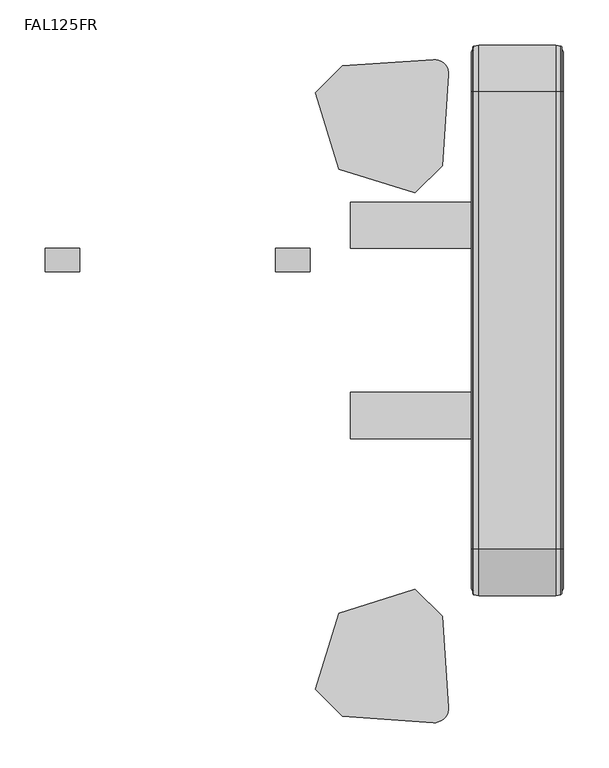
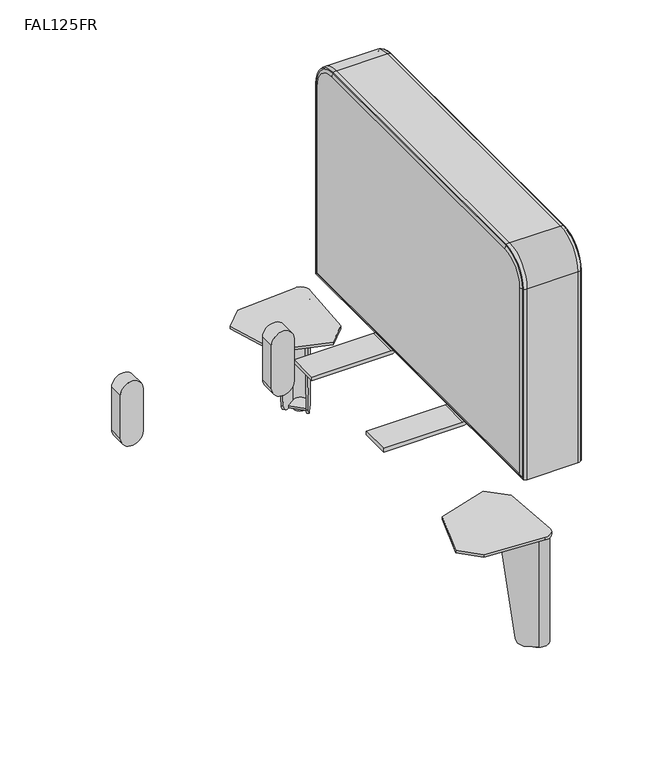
"""IFC4 building model written with IfcOpenShell, lengths in millimetres: furniture geometry, Stance_HC-Flora-Seat_Straight : FAL125FR."""

from ifc_helpers import new_model, si_unit, point, frame, frame_2d, origin, origin_with_axes, place, context, project, spatial, polyline, circle_curve, ellipse_curve, trimmed, segment, composite_curve, outline, extrude, source, transform, mapped, element, save
from ifc_brep_helpers import plane_surface, cylinder_surface, revolved_surface, advanced_brep


def fal125fr_3b171998(model_context):
    return source(origin(), model_context, "Body", "SolidModel", [
        extrude(outline(composite_curve([segment(polyline([(319.1128982, 647.699997), (204.8129042, 647.699997)]), True, "CONTINUOUS"), segment(trimmed(circle_curve(frame_2d((204.8129042, 641.349997)), 6.35), [point((204.8129042, 647.699997))], [point((198.4629042, 641.349997))], True, "CARTESIAN"), True, "CONTINUOUS"), segment(polyline([(198.4629042, 641.349997), (198.4629042, 508.000003), (192.1128921, 508.000003), (192.1128921, 641.349997)]), True, "CONTINUOUS"), segment(trimmed(circle_curve(frame_2d((204.8129042, 641.349997)), 12.7000121), [point((192.1128921, 641.349997))], [point((204.8129042, 654.0500091))], False, "CARTESIAN"), True, "CONTINUOUS"), segment(polyline([(204.8129042, 654.0500091), (319.1128982, 654.0500091), (319.1128982, 647.699997)]), True, "CONTINUOUS")], self_intersect=False)), frame((0.0, -223.8501991, 0.0), z_axis=(0.0, 1.0, 0.0), x_axis=(0.0, 0.0, 1.0)), (0.0, 0.0, 1.0), 50.7999879),
        extrude(outline(composite_curve([segment(polyline([(319.1128982, 647.699997), (204.8129042, 647.699997)]), True, "CONTINUOUS"), segment(trimmed(circle_curve(frame_2d((204.8129042, 641.349997)), 6.35), [point((204.8129042, 647.699997))], [point((198.4629042, 641.349997))], True, "CARTESIAN"), True, "CONTINUOUS"), segment(polyline([(198.4629042, 641.349997), (198.4629042, 508.000003), (192.1128921, 508.000003), (192.1128921, 641.349997)]), True, "CONTINUOUS"), segment(trimmed(circle_curve(frame_2d((204.8129042, 641.349997)), 12.7000121), [point((192.1128921, 641.349997))], [point((204.8129042, 654.0500091))], False, "CARTESIAN"), True, "CONTINUOUS"), segment(polyline([(204.8129042, 654.0500091), (319.1128982, 654.0500091), (319.1128982, 647.699997)]), True, "CONTINUOUS")], self_intersect=False)), frame((0.0, -433.3239864, 0.0), z_axis=(0.0, 1.0, 0.0), x_axis=(0.0, 0.0, 1.0)), (0.0, 0.0, 1.0), 50.7999879),
        advanced_brep(
        [(641.3499485, -555.6250121, 580.256636), (641.3499485, -50.8, 580.256636), (641.3499485, -8.73125, 538.187886), (641.3499485, -8.73125, 207.1941542), (641.3499485, -597.6937621, 207.1941542), (641.3499485, -597.6937621, 538.187886), (742.949997, -597.6937621, 538.187886), (742.949997, -597.6937621, 207.1941542), (742.949997, -8.73125, 207.1941542), (742.949997, -8.73125, 538.187886), (742.949997, -50.8, 580.256636), (742.949997, -555.6250121, 580.256636), (649.834142, -606.4250121, 538.187886), (734.4658035, -606.4250121, 538.187886), (734.4658035, -555.6250121, 588.987886), (649.834142, -555.6250121, 588.987886), (649.834142, -606.4250121, 198.4629042), (734.4658035, -606.4250121, 198.4629042), (649.834142, 0.0, 198.4629042), (734.4658035, 0.0, 198.4629042), (649.834142, 0.0, 538.187886), (734.4658035, 0.0, 538.187886), (649.834142, -50.8, 588.987886), (734.4658035, -50.8, 588.987886), (740.3065441, -603.3867316, 538.187886), (740.3065441, -555.6250121, 585.9496056), (740.3689212, -555.6250121, 587.8832953), (740.3689212, -605.3204213, 538.187886), (740.3065441, -603.3867316, 201.5011847), (740.3689212, -605.3204213, 199.567495), (740.3065441, -3.0382805, 201.5011847), (740.3689212, -1.1045908, 199.567495), (740.3065441, -3.0382805, 538.187886), (740.3689212, -1.1045908, 538.187886), (740.3065441, -50.8, 585.9496056), (740.3689212, -50.8, 587.8832953), (643.9310243, -555.6250121, 587.8832953), (643.9310243, -605.3204213, 538.187886), (643.9934014, -555.6250121, 585.9496056), (643.9934014, -603.3867316, 538.187886), (643.9310243, -605.3204213, 199.567495), (643.9934014, -603.3867316, 201.5011847), (643.9310243, -1.1045908, 199.567495), (643.9934014, -3.0382805, 201.5011847), (643.9310243, -1.1045908, 538.187886), (643.9934014, -3.0382805, 538.187886), (643.9310243, -50.8, 587.8832953), (643.9934014, -50.8, 585.9496056)],
        [
            (0, 1),
            (1, 2, circle_curve(frame((641.3499485, -50.8, 538.187886), z_axis=(-1.0, 0.0, 0.0), x_axis=(0.0, 1.0, 0.0)), 42.06875)),
            (2, 3),
            (3, 4),
            (4, 5),
            (5, 0, circle_curve(frame((641.3499485, -555.6250121, 538.187886), z_axis=(-1.0, 0.0, 0.0), x_axis=(0.0, 0.0, 1.0)), 42.06875)),
            (6, 7),
            (7, 8),
            (8, 9),
            (9, 10, circle_curve(frame((742.949997, -50.8, 538.187886), z_axis=(1.0, 0.0, 0.0), x_axis=(0.0, 1.0, 0.0)), 42.06875)),
            (10, 11),
            (11, 6, circle_curve(frame((742.949997, -555.6250121, 538.187886), z_axis=(1.0, 0.0, 0.0), x_axis=(0.0, 0.0, 1.0)), 42.06875)),
            (12, 13),
            (13, 14, circle_curve(frame((734.4658035, -555.6250121, 538.187886), z_axis=(-1.0, 0.0, 0.0), x_axis=(0.0, 0.0, 1.0)), 50.8)),
            (14, 15),
            (15, 12, circle_curve(frame((649.834142, -555.6250121, 538.187886), z_axis=(1.0, 0.0, 0.0), x_axis=(0.0, 0.0, 1.0)), 50.8)),
            (12, 16),
            (16, 17),
            (17, 13),
            (16, 18),
            (18, 19),
            (19, 17),
            (18, 20),
            (20, 21),
            (21, 19),
            (20, 22, circle_curve(frame((649.834142, -50.8, 538.187886), z_axis=(1.0, 0.0, 0.0), x_axis=(0.0, 1.0, 0.0)), 50.8)),
            (22, 23),
            (23, 21, circle_curve(frame((734.4658035, -50.8, 538.187886), z_axis=(-1.0, 0.0, 0.0), x_axis=(0.0, 1.0, 0.0)), 50.8)),
            (14, 23),
            (22, 15),
            (24, 6, circle_curve(frame((735.4980492, -597.6937621, 538.187886), z_axis=(0.0, 0.0, 1.0), x_axis=(0.0, 1.0, 0.0)), 7.4519478)),
            (11, 25, circle_curve(frame((735.4980492, -555.6250121, 580.256636), z_axis=(0.0, -1.0, 0.0), x_axis=(0.0, 0.0, -1.0)), 7.4519478)),
            (25, 24, circle_curve(frame((740.3065441, -555.6250121, 538.187886), z_axis=(1.0, 0.0, 0.0), x_axis=(0.0, 0.0, 1.0)), 47.7617195)),
            (25, 26, circle_curve(frame((739.9982081, -555.6250121, 586.9274028), z_axis=(0.0, -1.0, 0.0), x_axis=(0.0, 0.0, -1.0)), 1.0252602)),
            (26, 27, circle_curve(frame((740.3689212, -555.6250121, 538.187886), z_axis=(1.0, 0.0, 0.0), x_axis=(0.0, 0.0, 1.0)), 49.6954092)),
            (27, 24, circle_curve(frame((739.9982081, -604.3645289, 538.187886), z_axis=(0.0, 0.0, 1.0), x_axis=(0.0, 1.0, 0.0)), 1.0252602)),
            (13, 27, circle_curve(frame((734.4658035, -590.099093, 538.187886), z_axis=(0.0, 0.0, 1.0), x_axis=(0.0, 1.0, 0.0)), 16.3259191)),
            (26, 14, circle_curve(frame((734.4658035, -555.6250121, 572.661967), z_axis=(0.0, -1.0, 0.0), x_axis=(0.0, 0.0, -1.0)), 16.3259191)),
            (24, 28),
            (28, 7, ellipse_curve(frame((735.4980492, -597.6937621, 207.1941542), z_axis=(0.0, -0.7071067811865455, 0.7071067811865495), x_axis=(0.0, 0.7071067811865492, 0.7071067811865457)), 10.5386456, 7.4519478)),
            (27, 29),
            (29, 28, ellipse_curve(frame((739.9982081, -604.3645289, 200.5233874), z_axis=(0.0, -0.7071067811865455, 0.7071067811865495), x_axis=(0.0, 0.7071067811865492, 0.7071067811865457)), 1.4499369, 1.0252602)),
            (17, 29, ellipse_curve(frame((734.4658035, -590.099093, 214.7888233), z_axis=(0.0, -0.7071067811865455, 0.7071067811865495), x_axis=(0.0, 0.7071067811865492, 0.7071067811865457)), 23.0883362, 16.3259191)),
            (28, 30),
            (30, 8, ellipse_curve(frame((735.4980492, -8.73125, 207.1941542), z_axis=(0.0, -0.7071067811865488, -0.7071067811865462), x_axis=(0.0, -0.7071067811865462, 0.7071067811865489)), 10.5386456, 7.4519478)),
            (29, 31),
            (31, 30, ellipse_curve(frame((739.9982081, -2.0604832, 200.5233874), z_axis=(0.0, -0.7071067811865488, -0.7071067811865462), x_axis=(0.0, -0.7071067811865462, 0.7071067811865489)), 1.4499369, 1.0252602)),
            (19, 31, ellipse_curve(frame((734.4658035, -16.3259191, 214.7888233), z_axis=(0.0, -0.7071067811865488, -0.7071067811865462), x_axis=(0.0, -0.7071067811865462, 0.7071067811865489)), 23.0883362, 16.3259191)),
            (30, 32),
            (32, 9, circle_curve(frame((735.4980492, -8.73125, 538.187886), z_axis=(0.0, 0.0, -1.0), x_axis=(0.0, -1.0, 0.0)), 7.4519478)),
            (31, 33),
            (33, 32, circle_curve(frame((739.9982081, -2.0604832, 538.187886), z_axis=(0.0, 0.0, -1.0), x_axis=(0.0, -1.0, 0.0)), 1.0252602)),
            (21, 33, circle_curve(frame((734.4658035, -16.3259191, 538.187886), z_axis=(0.0, 0.0, -1.0), x_axis=(0.0, -1.0, 0.0)), 16.3259191)),
            (32, 34, circle_curve(frame((740.3065441, -50.8, 538.187886), z_axis=(1.0, 0.0, 0.0), x_axis=(0.0, 1.0, 0.0)), 47.7617195)),
            (34, 10, circle_curve(frame((735.4980492, -50.8, 580.256636), z_axis=(0.0, 1.0, 0.0), x_axis=(0.0, 0.0, -1.0)), 7.4519478)),
            (33, 35, circle_curve(frame((740.3689212, -50.8, 538.187886), z_axis=(1.0, 0.0, 0.0), x_axis=(0.0, 1.0, 0.0)), 49.6954092)),
            (35, 34, circle_curve(frame((739.9982081, -50.8, 586.9274028), z_axis=(0.0, 1.0, 0.0), x_axis=(0.0, 0.0, -1.0)), 1.0252602)),
            (23, 35, circle_curve(frame((734.4658035, -50.8, 572.661967), z_axis=(0.0, 1.0, 0.0), x_axis=(0.0, 0.0, -1.0)), 16.3259191)),
            (34, 25),
            (35, 26),
            (15, 36, circle_curve(frame((649.834142, -555.6250121, 572.661967), z_axis=(0.0, -1.0, 0.0), x_axis=(0.0, 0.0, -1.0)), 16.3259191)),
            (36, 37, circle_curve(frame((643.9310243, -555.6250121, 538.187886), z_axis=(1.0, 0.0, 0.0), x_axis=(0.0, 0.0, 1.0)), 49.6954092)),
            (37, 12, circle_curve(frame((649.834142, -590.099093, 538.187886), z_axis=(0.0, 0.0, 1.0), x_axis=(0.0, 1.0, 0.0)), 16.3259191)),
            (36, 38, circle_curve(frame((644.3017374, -555.6250121, 586.9274028), z_axis=(0.0, -1.0, 0.0), x_axis=(0.0, 0.0, -1.0)), 1.0252602)),
            (38, 39, circle_curve(frame((643.9934014, -555.6250121, 538.187886), z_axis=(1.0, 0.0, 0.0), x_axis=(0.0, 0.0, 1.0)), 47.7617195)),
            (39, 37, circle_curve(frame((644.3017374, -604.3645289, 538.187886), z_axis=(0.0, 0.0, 1.0), x_axis=(0.0, 1.0, 0.0)), 1.0252602)),
            (38, 0, circle_curve(frame((648.8018963, -555.6250121, 580.256636), z_axis=(0.0, -1.0, 0.0), x_axis=(0.0, 0.0, -1.0)), 7.4519478)),
            (5, 39, circle_curve(frame((648.8018963, -597.6937621, 538.187886), z_axis=(0.0, 0.0, 1.0), x_axis=(0.0, 1.0, 0.0)), 7.4519478)),
            (37, 40),
            (40, 16, ellipse_curve(frame((649.834142, -590.099093, 214.7888233), z_axis=(0.0, -0.7071067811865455, 0.7071067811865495), x_axis=(0.0, 0.7071067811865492, 0.7071067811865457)), 23.0883362, 16.3259191)),
            (39, 41),
            (41, 40, ellipse_curve(frame((644.3017374, -604.3645289, 200.5233874), z_axis=(0.0, -0.7071067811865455, 0.7071067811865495), x_axis=(0.0, 0.7071067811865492, 0.7071067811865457)), 1.4499369, 1.0252602)),
            (4, 41, ellipse_curve(frame((648.8018963, -597.6937621, 207.1941542), z_axis=(0.0, -0.7071067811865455, 0.7071067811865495), x_axis=(0.0, 0.7071067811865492, 0.7071067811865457)), 10.5386456, 7.4519478)),
            (40, 42),
            (42, 18, ellipse_curve(frame((649.834142, -16.3259191, 214.7888233), z_axis=(0.0, -0.7071067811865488, -0.7071067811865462), x_axis=(0.0, -0.7071067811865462, 0.7071067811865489)), 23.0883362, 16.3259191)),
            (41, 43),
            (43, 42, ellipse_curve(frame((644.3017374, -2.0604832, 200.5233874), z_axis=(0.0, -0.7071067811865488, -0.7071067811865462), x_axis=(0.0, -0.7071067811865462, 0.7071067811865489)), 1.4499369, 1.0252602)),
            (3, 43, ellipse_curve(frame((648.8018963, -8.73125, 207.1941542), z_axis=(0.0, -0.7071067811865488, -0.7071067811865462), x_axis=(0.0, -0.7071067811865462, 0.7071067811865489)), 10.5386456, 7.4519478)),
            (42, 44),
            (44, 20, circle_curve(frame((649.834142, -16.3259191, 538.187886), z_axis=(0.0, 0.0, -1.0), x_axis=(0.0, -1.0, 0.0)), 16.3259191)),
            (43, 45),
            (45, 44, circle_curve(frame((644.3017374, -2.0604832, 538.187886), z_axis=(0.0, 0.0, -1.0), x_axis=(0.0, -1.0, 0.0)), 1.0252602)),
            (2, 45, circle_curve(frame((648.8018963, -8.73125, 538.187886), z_axis=(0.0, 0.0, -1.0), x_axis=(0.0, -1.0, 0.0)), 7.4519478)),
            (44, 46, circle_curve(frame((643.9310243, -50.8, 538.187886), z_axis=(1.0, 0.0, 0.0), x_axis=(0.0, 1.0, 0.0)), 49.6954092)),
            (46, 22, circle_curve(frame((649.834142, -50.8, 572.661967), z_axis=(0.0, 1.0, 0.0), x_axis=(0.0, 0.0, -1.0)), 16.3259191)),
            (45, 47, circle_curve(frame((643.9934014, -50.8, 538.187886), z_axis=(1.0, 0.0, 0.0), x_axis=(0.0, 1.0, 0.0)), 47.7617195)),
            (47, 46, circle_curve(frame((644.3017374, -50.8, 586.9274028), z_axis=(0.0, 1.0, 0.0), x_axis=(0.0, 0.0, -1.0)), 1.0252602)),
            (1, 47, circle_curve(frame((648.8018963, -50.8, 580.256636), z_axis=(0.0, 1.0, 0.0), x_axis=(0.0, 0.0, -1.0)), 7.4519478)),
            (46, 36),
            (47, 38),
        ],
        [
            plane_surface(frame((641.3499485, -555.6250121, 580.256636), z_axis=(-1.0, 0.0, 0.0), x_axis=(0.0, -1.0, 0.0))),
            plane_surface(frame((742.949997, -555.6250121, 580.256636), z_axis=(1.0, 0.0, 0.0), x_axis=(0.0, 1.0, 0.0))),
            cylinder_surface(frame((635.0, -555.6250121, 538.187886), z_axis=(-1.0, 0.0, 0.0), x_axis=(0.0, 0.0, 1.0)), 50.8),
            plane_surface(frame((734.4658035, -606.4250121, 538.187886), z_axis=(0.0, -1.0, 0.0), x_axis=(0.0, 0.0, -1.0))),
            plane_surface(frame((734.4658035, -606.4250121, 198.4629042), z_axis=(0.0, 0.0, -1.0), x_axis=(0.0, 1.0, 0.0))),
            plane_surface(frame((734.4658035, 0.0, 198.4629042), z_axis=(0.0, 1.0, 0.0), x_axis=(0.0, 0.0, 1.0))),
            cylinder_surface(frame((635.0, -50.8, 538.187886), z_axis=(-1.0, 0.0, 0.0), x_axis=(0.0, 1.0, 0.0)), 50.8),
            plane_surface(frame((734.4658035, -50.8, 588.987886), z_axis=(0.0, 0.0, 1.0), x_axis=(0.0, -1.0, 0.0))),
            revolved_surface(trimmed(ellipse_curve(frame((735.4980492, -555.6250121, 580.256636), z_axis=(0.0, -1.0, 0.0), x_axis=(0.0, 0.0, -1.0)), 7.4519478, 7.4519478), [point((742.949997, -555.6250121, 580.256636))], [point((740.3065441, -555.6250121, 585.9496056))], True, "CARTESIAN"), (635.0, -555.6250121, 538.187886), (-1.0, 0.0, 0.0)),
            revolved_surface(trimmed(ellipse_curve(frame((739.9982081, -555.6250121, 586.9274028), z_axis=(0.0, -1.0, 0.0), x_axis=(0.0, 0.0, -1.0)), 1.0252602, 1.0252602), [point((740.3065441, -555.6250121, 585.9496056))], [point((740.3689212, -555.6250121, 587.8832953))], True, "CARTESIAN"), (635.0, -555.6250121, 538.187886), (-1.0, 0.0, 0.0)),
            revolved_surface(trimmed(ellipse_curve(frame((734.4658035, -555.6250121, 572.661967), z_axis=(0.0, -1.0, 0.0), x_axis=(0.0, 0.0, -1.0)), 16.3259191, 16.3259191), [point((740.3689212, -555.6250121, 587.8832953))], [point((734.4658035, -555.6250121, 588.987886))], True, "CARTESIAN"), (635.0, -555.6250121, 538.187886), (-1.0, 0.0, 0.0)),
            cylinder_surface(frame((735.4980492, -597.6937621, 538.187886), z_axis=(0.0, 0.0, 1.0), x_axis=(0.0, 1.0, 0.0)), 7.4519478),
            cylinder_surface(frame((739.9982081, -604.3645289, 538.187886), z_axis=(0.0, 0.0, 1.0), x_axis=(0.0, 1.0, 0.0)), 1.0252602),
            cylinder_surface(frame((734.4658035, -590.099093, 538.187886), z_axis=(0.0, 0.0, 1.0), x_axis=(0.0, 1.0, 0.0)), 16.3259191),
            cylinder_surface(frame((735.4980492, -606.4250121, 207.1941542), z_axis=(0.0, -1.0, 0.0), x_axis=(0.0, 0.0, 1.0)), 7.4519478),
            cylinder_surface(frame((739.9982081, -606.4250121, 200.5233874), z_axis=(0.0, -1.0, 0.0), x_axis=(0.0, 0.0, 1.0)), 1.0252602),
            cylinder_surface(frame((734.4658035, -606.4250121, 214.7888233), z_axis=(0.0, -1.0, 0.0), x_axis=(0.0, 0.0, 1.0)), 16.3259191),
            cylinder_surface(frame((735.4980492, -8.73125, 198.4629042), z_axis=(0.0, 0.0, -1.0), x_axis=(0.0, -1.0, 0.0)), 7.4519478),
            cylinder_surface(frame((739.9982081, -2.0604832, 198.4629042), z_axis=(0.0, 0.0, -1.0), x_axis=(0.0, -1.0, 0.0)), 1.0252602),
            cylinder_surface(frame((734.4658035, -16.3259191, 198.4629042), z_axis=(0.0, 0.0, -1.0), x_axis=(0.0, -1.0, 0.0)), 16.3259191),
            revolved_surface(trimmed(ellipse_curve(frame((735.4980492, -8.73125, 538.187886), z_axis=(0.0, 0.0, 1.0), x_axis=(0.0, -1.0, 0.0)), 7.4519478, 7.4519478), [point((742.949997, -8.73125, 538.187886))], [point((740.3065441, -3.0382805, 538.187886))], True, "CARTESIAN"), (635.0, -50.8, 538.187886), (-1.0, 0.0, 0.0)),
            revolved_surface(trimmed(ellipse_curve(frame((739.9982081, -2.0604832, 538.187886), z_axis=(0.0, 0.0, 1.0), x_axis=(0.0, -1.0, 0.0)), 1.0252602, 1.0252602), [point((740.3065441, -3.0382805, 538.187886))], [point((740.3689212, -1.1045908, 538.187886))], True, "CARTESIAN"), (635.0, -50.8, 538.187886), (-1.0, 0.0, 0.0)),
            revolved_surface(trimmed(ellipse_curve(frame((734.4658035, -16.3259191, 538.187886), z_axis=(0.0, 0.0, 1.0), x_axis=(0.0, -1.0, 0.0)), 16.3259191, 16.3259191), [point((740.3689212, -1.1045908, 538.187886))], [point((734.4658035, 0.0, 538.187886))], True, "CARTESIAN"), (635.0, -50.8, 538.187886), (-1.0, 0.0, 0.0)),
            cylinder_surface(frame((735.4980492, -50.8, 580.256636), z_axis=(0.0, 1.0, 0.0), x_axis=(0.0, 0.0, -1.0)), 7.4519478),
            cylinder_surface(frame((739.9982081, -50.8, 586.9274028), z_axis=(0.0, 1.0, 0.0), x_axis=(0.0, 0.0, -1.0)), 1.0252602),
            cylinder_surface(frame((734.4658035, -50.8, 572.661967), z_axis=(0.0, 1.0, 0.0), x_axis=(0.0, 0.0, -1.0)), 16.3259191),
            revolved_surface(trimmed(ellipse_curve(frame((649.834142, -555.6250121, 572.661967), z_axis=(0.0, -1.0, 0.0), x_axis=(0.0, 0.0, -1.0)), 16.3259191, 16.3259191), [point((649.834142, -555.6250121, 588.987886))], [point((643.9310243, -555.6250121, 587.8832953))], True, "CARTESIAN"), (635.0, -555.6250121, 538.187886), (-1.0, 0.0, 0.0)),
            revolved_surface(trimmed(ellipse_curve(frame((644.3017374, -555.6250121, 586.9274028), z_axis=(0.0, -1.0, 0.0), x_axis=(0.0, 0.0, -1.0)), 1.0252602, 1.0252602), [point((643.9310243, -555.6250121, 587.8832953))], [point((643.9934014, -555.6250121, 585.9496056))], True, "CARTESIAN"), (635.0, -555.6250121, 538.187886), (-1.0, 0.0, 0.0)),
            revolved_surface(trimmed(ellipse_curve(frame((648.8018963, -555.6250121, 580.256636), z_axis=(0.0, -1.0, 0.0), x_axis=(0.0, 0.0, -1.0)), 7.4519478, 7.4519478), [point((643.9934014, -555.6250121, 585.9496056))], [point((641.3499485, -555.6250121, 580.256636))], True, "CARTESIAN"), (635.0, -555.6250121, 538.187886), (-1.0, 0.0, 0.0)),
            cylinder_surface(frame((649.834142, -590.099093, 538.187886), z_axis=(0.0, 0.0, 1.0), x_axis=(0.0, 1.0, 0.0)), 16.3259191),
            cylinder_surface(frame((644.3017374, -604.3645289, 538.187886), z_axis=(0.0, 0.0, 1.0), x_axis=(0.0, 1.0, 0.0)), 1.0252602),
            cylinder_surface(frame((648.8018963, -597.6937621, 538.187886), z_axis=(0.0, 0.0, 1.0), x_axis=(0.0, 1.0, 0.0)), 7.4519478),
            cylinder_surface(frame((649.834142, -606.4250121, 214.7888233), z_axis=(0.0, -1.0, 0.0), x_axis=(0.0, 0.0, 1.0)), 16.3259191),
            cylinder_surface(frame((644.3017374, -606.4250121, 200.5233874), z_axis=(0.0, -1.0, 0.0), x_axis=(0.0, 0.0, 1.0)), 1.0252602),
            cylinder_surface(frame((648.8018963, -606.4250121, 207.1941542), z_axis=(0.0, -1.0, 0.0), x_axis=(0.0, 0.0, 1.0)), 7.4519478),
            cylinder_surface(frame((649.834142, -16.3259191, 198.4629042), z_axis=(0.0, 0.0, -1.0), x_axis=(0.0, -1.0, 0.0)), 16.3259191),
            cylinder_surface(frame((644.3017374, -2.0604832, 198.4629042), z_axis=(0.0, 0.0, -1.0), x_axis=(0.0, -1.0, 0.0)), 1.0252602),
            cylinder_surface(frame((648.8018963, -8.73125, 198.4629042), z_axis=(0.0, 0.0, -1.0), x_axis=(0.0, -1.0, 0.0)), 7.4519478),
            revolved_surface(trimmed(ellipse_curve(frame((649.834142, -16.3259191, 538.187886), z_axis=(0.0, 0.0, 1.0), x_axis=(0.0, -1.0, 0.0)), 16.3259191, 16.3259191), [point((649.834142, 0.0, 538.187886))], [point((643.9310243, -1.1045908, 538.187886))], True, "CARTESIAN"), (635.0, -50.8, 538.187886), (-1.0, 0.0, 0.0)),
            revolved_surface(trimmed(ellipse_curve(frame((644.3017374, -2.0604832, 538.187886), z_axis=(0.0, 0.0, 1.0), x_axis=(0.0, -1.0, 0.0)), 1.0252602, 1.0252602), [point((643.9310243, -1.1045908, 538.187886))], [point((643.9934014, -3.0382805, 538.187886))], True, "CARTESIAN"), (635.0, -50.8, 538.187886), (-1.0, 0.0, 0.0)),
            revolved_surface(trimmed(ellipse_curve(frame((648.8018963, -8.73125, 538.187886), z_axis=(0.0, 0.0, 1.0), x_axis=(0.0, -1.0, 0.0)), 7.4519478, 7.4519478), [point((643.9934014, -3.0382805, 538.187886))], [point((641.3499485, -8.73125, 538.187886))], True, "CARTESIAN"), (635.0, -50.8, 538.187886), (-1.0, 0.0, 0.0)),
            cylinder_surface(frame((649.834142, -50.8, 572.661967), z_axis=(0.0, 1.0, 0.0), x_axis=(0.0, 0.0, -1.0)), 16.3259191),
            cylinder_surface(frame((644.3017374, -50.8, 586.9274028), z_axis=(0.0, 1.0, 0.0), x_axis=(0.0, 0.0, -1.0)), 1.0252602),
            cylinder_surface(frame((648.8018963, -50.8, 580.256636), z_axis=(0.0, 1.0, 0.0), x_axis=(0.0, 0.0, -1.0)), 7.4519478),
        ],
        [
            (0, [[1, 2, 3, 4, 5, 6]]),
            (1, [[7, 8, 9, 10, 11, 12]]),
            (2, [[13, 14, 15, 16]]),
            (3, [[17, 18, 19, -13]]),
            (4, [[20, 21, 22, -18]]),
            (5, [[23, 24, 25, -21]]),
            (6, [[26, 27, 28, -24]]),
            (7, [[29, -27, 30, -15]]),
            (8, [[31, -12, 32, 33]]),
            (9, [[34, 35, 36, -33]]),
            (10, [[37, -35, 38, -14]]),
            (11, [[39, 40, -7, -31]]),
            (12, [[41, 42, -39, -36]]),
            (13, [[43, -41, -37, -19]]),
            (14, [[44, 45, -8, -40]]),
            (15, [[46, 47, -44, -42]]),
            (16, [[48, -46, -43, -22]]),
            (17, [[49, 50, -9, -45]]),
            (18, [[51, 52, -49, -47]]),
            (19, [[53, -51, -48, -25]]),
            (20, [[54, 55, -10, -50]]),
            (21, [[56, 57, -54, -52]]),
            (22, [[58, -56, -53, -28]]),
            (23, [[-11, -55, 59, -32]]),
            (24, [[-59, -57, 60, -34]]),
            (25, [[-38, -60, -58, -29]]),
            (26, [[61, 62, 63, -16]]),
            (27, [[64, 65, 66, -62]]),
            (28, [[67, -6, 68, -65]]),
            (29, [[-63, 69, 70, -17]]),
            (30, [[71, 72, -69, -66]]),
            (31, [[-5, 73, -71, -68]]),
            (32, [[-70, 74, 75, -20]]),
            (33, [[76, 77, -74, -72]]),
            (34, [[-4, 78, -76, -73]]),
            (35, [[-75, 79, 80, -23]]),
            (36, [[81, 82, -79, -77]]),
            (37, [[-3, 83, -81, -78]]),
            (38, [[-80, 84, 85, -26]]),
            (39, [[86, 87, -84, -82]]),
            (40, [[-2, 88, -86, -83]]),
            (41, [[-85, 89, -61, -30]]),
            (42, [[-89, -87, 90, -64]]),
            (43, [[-90, -88, -1, -67]]),
        ],
    ),
        extrude(outline(composite_curve([segment(polyline([(298.45, 425.45), (222.25, 425.45)]), True, "CONTINUOUS"), segment(trimmed(circle_curve(frame_2d((222.25, 444.5)), 19.05), [point((222.25, 425.45))], [point((222.25, 463.55))], False, "CARTESIAN"), True, "CONTINUOUS"), segment(polyline([(222.25, 463.55), (298.45, 463.55)]), True, "CONTINUOUS"), segment(trimmed(circle_curve(frame_2d((298.45, 444.5)), 19.05), [point((298.45, 463.55))], [point((298.45, 425.45))], False, "CARTESIAN"), True, "CONTINUOUS")], self_intersect=False)), frame((0.0, -249.250193, 0.0), z_axis=(0.0, 1.0, 0.0), x_axis=(0.0, 0.0, 1.0)), (0.0, 0.0, 1.0), 25.3999939),
        extrude(outline(composite_curve([segment(polyline([(298.45, 171.45), (222.25, 171.45)]), True, "CONTINUOUS"), segment(trimmed(circle_curve(frame_2d((222.25, 190.5)), 19.05), [point((222.25, 171.45))], [point((222.25, 209.55))], False, "CARTESIAN"), True, "CONTINUOUS"), segment(polyline([(222.25, 209.55), (298.45, 209.55)]), True, "CONTINUOUS"), segment(trimmed(circle_curve(frame_2d((298.45, 190.5)), 19.05), [point((298.45, 209.55))], [point((298.45, 171.45))], False, "CARTESIAN"), True, "CONTINUOUS")], self_intersect=False)), frame((0.0, -249.250193, 0.0), z_axis=(0.0, 1.0, 0.0), x_axis=(0.0, 0.0, 1.0)), (0.0, 0.0, 1.0), 25.3999939),
        extrude(outline(composite_curve([segment(polyline([(579.1692791, -32.5186459), (592.4741789, -23.2024186)]), True, "CONTINUOUS"), segment(trimmed(circle_curve(frame_2d((599.1246983, -32.7003078)), 11.5947965), [point((592.4741789, -23.2024186))], [point((608.6225874, -39.3508272))], False, "CARTESIAN"), True, "CONTINUOUS"), segment(polyline([(608.6225874, -39.3508272), (599.3063601, -52.6557269), (579.1692791, -32.5186459)]), True, "CONTINUOUS")], self_intersect=False)), frame((0.0, 0.0, 3.175), z_axis=(0.0, 0.0, 1.0), x_axis=(1.0, 0.0, 0.0)), (0.0, 0.0, 1.0), 3.3792927),
        advanced_brep(
        [(579.3314582, -86.7866368, 193.6877233), (611.2555647, -41.1944649, 193.6877233), (590.6305412, -20.5694413, 193.6877233), (545.0383719, -52.4935459, 193.6877233), (546.8820096, -55.1265233, 193.6877233), (592.4741789, -23.2024186, 193.6877233), (608.6225874, -39.3508272, 193.6877233), (576.6984809, -84.9429991, 193.6877233), (579.3314582, -86.7866368, 189.1419595), (608.6225874, -39.3508272, 3.1876992), (598.5018779, -53.8046422, 3.1876992), (589.3247818, -66.9108427, 17.1280233), (592.4741789, -23.2024186, 3.1876992), (564.9141633, -42.5002243, 17.1280233), (578.0203639, -33.3231282, 3.1876992), (545.0383719, -52.4935459, 189.1419334), (590.6305412, -20.5694413, 3.1876992), (575.7124662, -31.0152305, 3.1876992), (562.6062656, -40.1923266, 17.1280233), (611.2555647, -41.1944649, 3.1876992), (591.6326795, -69.2187405, 17.1280233), (600.8097756, -56.1125399, 3.1876992)],
        [
            (0, 1),
            (1, 2, circle_curve(frame((599.1246983, -32.7003078, 193.6877233), z_axis=(0.0, 0.0, 1.0), x_axis=(-1.0, 0.0, 0.0)), 14.8090724)),
            (2, 3),
            (3, 4),
            (4, 5),
            (5, 6, circle_curve(frame((599.1246983, -32.7003078, 193.6877233), z_axis=(0.0, 0.0, -1.0), x_axis=(-1.0, 0.0, 0.0)), 11.5947965)),
            (6, 7),
            (7, 0),
            (7, 8),
            (8, 0),
            (6, 9),
            (9, 10),
            (10, 11, ellipse_curve(frame((598.5018779, -53.8046422, 19.0626992), z_axis=(-0.8191509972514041, 0.5735779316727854, 0.0), x_axis=(-0.5735779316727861, -0.8191509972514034, 0.0)), 16.1198923, 15.875)),
            (11, 7),
            (5, 12),
            (12, 9, circle_curve(frame((599.1246983, -32.7003078, 3.1876992), z_axis=(0.0, 0.0, -1.0), x_axis=(-1.0, 0.0, 0.0)), 11.5947965)),
            (4, 13),
            (13, 14, ellipse_curve(frame((578.0203639, -33.3231282, 19.0626992), z_axis=(0.5735779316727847, -0.8191509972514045, 0.0), x_axis=(0.8191509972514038, 0.5735779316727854, 0.0)), 16.1198923, 15.875)),
            (14, 12),
            (3, 15),
            (15, 4),
            (2, 16),
            (16, 17),
            (17, 18, ellipse_curve(frame((575.7124662, -31.0152305, 19.0626992), z_axis=(-0.5735779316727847, 0.8191509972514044, 0.0), x_axis=(0.8191509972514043, 0.573577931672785, 0.0)), 16.1198923, 15.875)),
            (18, 15),
            (1, 19),
            (19, 16, circle_curve(frame((599.1246983, -32.7003078, 3.1876992), z_axis=(0.0, 0.0, 1.0), x_axis=(-1.0, 0.0, 0.0)), 14.8090724)),
            (8, 20),
            (20, 21, ellipse_curve(frame((600.8097756, -56.1125399, 19.0626992), z_axis=(0.8191509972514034, -0.5735779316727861, 0.0), x_axis=(-0.5735779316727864, -0.8191509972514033, 0.0)), 16.1198923, 15.875)),
            (21, 19),
            (18, 13),
            (11, 20),
            (21, 10),
            (14, 17),
        ],
        [
            plane_surface(frame((576.6984809, -84.9429991, 193.6877233), z_axis=(0.0, 0.0, 1.0000000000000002), x_axis=(-0.8191509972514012, 0.5735779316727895, 0.0))),
            plane_surface(frame((579.3314582, -86.7866368, 193.6877233), z_axis=(-0.5735779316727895, -0.8191509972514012, 0.0), x_axis=(0.0, 0.0, -1.0))),
            plane_surface(frame((576.6984809, -84.9429991, 193.6877233), z_axis=(-0.8191509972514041, 0.5735779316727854, 0.0), x_axis=(0.0, 0.0, -1.0))),
            revolved_surface(polyline([(587.5299018, -32.7003078, 3.1876992), (587.5299018, -32.7003078, 193.6877233)]), (599.1246983, -32.7003078, 0.0), (0.0, 0.0, -1.0)),
            plane_surface(frame((592.4741789, -23.2024186, 193.6877233), z_axis=(0.5735779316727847, -0.8191509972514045, 0.0), x_axis=(0.0, 0.0, -1.0))),
            plane_surface(frame((546.8820096, -55.1265233, 193.6877233), z_axis=(-0.8191509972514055, -0.5735779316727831, 0.0), x_axis=(0.0, 0.0, -1.0))),
            plane_surface(frame((545.0383719, -52.4935459, 193.6877233), z_axis=(-0.5735779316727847, 0.8191509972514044, 0.0), x_axis=(0.0, 0.0, -1.0))),
            cylinder_surface(frame((599.1246983, -32.7003078, 0.0), z_axis=(0.0, 0.0, 1.0), x_axis=(-1.0, 0.0, 0.0)), 14.8090724),
            plane_surface(frame((611.2555647, -41.1944649, 193.6877233), z_axis=(0.8191509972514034, -0.5735779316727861, 0.0), x_axis=(0.0, 0.0, -1.0))),
            plane_surface(frame((556.7224625, -34.3085234, 17.1280233), z_axis=(-0.7018361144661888, -0.7018361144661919, -0.12186934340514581), x_axis=(0.7071067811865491, -0.707106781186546, 0.0))),
            plane_surface(frame((589.212818, -1.818168, 3.1876992), z_axis=(0.0, 0.0, -1.0), x_axis=(0.707106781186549, -0.707106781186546, 0.0))),
            cylinder_surface(frame((608.6497538, -63.9525182, 19.0626992), z_axis=(0.7071067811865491, -0.707106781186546, 0.0), x_axis=(-0.707106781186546, -0.7071067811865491, 0.0)), 15.875),
        ],
        [
            (0, [[1, 2, 3, 4, 5, 6, 7, 8]]),
            (1, [[9, 10, -8]]),
            (2, [[11, 12, 13, 14, -7]]),
            (3, [[15, 16, -11, -6]]),
            (4, [[17, 18, 19, -15, -5]]),
            (5, [[20, 21, -4]]),
            (6, [[22, 23, 24, 25, -20, -3]]),
            (7, [[26, 27, -22, -2]]),
            (8, [[-10, 28, 29, 30, -26, -1]]),
            (9, [[-17, -21, -25, 31]]),
            (9, [[-28, -9, -14, 32]]),
            (10, [[-23, -27, -30, 33, -12, -16, -19, 34]]),
            (11, [[-13, -33, -29, -32]]),
            (11, [[-24, -34, -18, -31]]),
        ],
    ),
        extrude(outline(composite_curve([segment(trimmed(circle_curve(frame_2d((597.0913541, -34.7252749)), 11.1125), [point((608.2038541, -34.7252749))], [point((585.9788541, -34.7252749))], False, "CARTESIAN"), True, "CONTINUOUS"), segment(trimmed(circle_curve(frame_2d((597.0913541, -34.7252749)), 11.1125), [point((585.9788541, -34.7252749))], [point((608.2038541, -34.7252749))], False, "CARTESIAN"), True, "CONTINUOUS")], self_intersect=False)), origin_with_axes(), (0.0, 0.0, 1.0), 3.175),
        extrude(outline(composite_curve([segment(trimmed(circle_curve(frame_2d((600.4438064, -31.3811988)), 15.8749964), [point((599.3364228, -15.5448732))], [point((616.2801321, -32.4885822))], False, "CARTESIAN"), True, "CONTINUOUS"), segment(polyline([(616.2801321, -32.4885822), (609.2831602, -132.5499778), (579.4327865, -162.4003462), (495.4896864, -136.3353271), (469.4246518, -52.3922188), (499.2750239, -22.5418467), (599.3364228, -15.5448732)]), True, "CONTINUOUS")], self_intersect=False)), frame((0.0, 0.0, 193.6877233), z_axis=(0.0, 0.0, 1.0), x_axis=(1.0, 0.0, 0.0)), (0.0, 0.0, 1.0), 4.7751809),
        extrude(outline(composite_curve([segment(polyline([(579.1692791, -729.4814086), (599.3063601, -709.3443276), (608.6225874, -722.6492273)]), True, "CONTINUOUS"), segment(trimmed(circle_curve(frame_2d((599.1246983, -729.2997467)), 11.5947965), [point((608.6225874, -722.6492273))], [point((592.4741789, -738.7976359))], False, "CARTESIAN"), True, "CONTINUOUS"), segment(polyline([(592.4741789, -738.7976359), (579.1692791, -729.4814086)]), True, "CONTINUOUS")], self_intersect=False)), frame((0.0, 0.0, 3.175), z_axis=(0.0, 0.0, 1.0), x_axis=(1.0, 0.0, 0.0)), (0.0, 0.0, 1.0), 3.3792927),
        advanced_brep(
        [(579.3314582, -675.2134177, 193.6877233), (576.6984809, -677.0570554, 193.6877233), (608.6225874, -722.6492273, 193.6877233), (592.4741789, -738.7976359, 193.6877233), (546.8820096, -706.8735312, 193.6877233), (545.0383719, -709.5065086, 193.6877233), (590.6305412, -741.4306132, 193.6877233), (611.2555647, -720.8055896, 193.6877233), (579.3314582, -675.2134177, 189.1419595), (589.3247818, -695.0892118, 17.1280233), (598.5018779, -708.1954123, 3.1876992), (608.6225874, -722.6492273, 3.1876992), (592.4741789, -738.7976359, 3.1876992), (578.0203639, -728.6769263, 3.1876992), (564.9141633, -719.4998302, 17.1280233), (545.0383719, -709.5065086, 189.1419334), (562.6062656, -721.8077279, 17.1280233), (575.7124662, -730.984824, 3.1876992), (590.6305412, -741.4306132, 3.1876992), (611.2555647, -720.8055896, 3.1876992), (600.8097756, -705.8875146, 3.1876992), (591.6326795, -692.781314, 17.1280233)],
        [
            (0, 1),
            (1, 2),
            (2, 3, circle_curve(frame((599.1246983, -729.2997467, 193.6877233), z_axis=(0.0, 0.0, -1.0), x_axis=(-1.0, 0.0, 0.0)), 11.5947965)),
            (3, 4),
            (4, 5),
            (5, 6),
            (6, 7, circle_curve(frame((599.1246983, -729.2997467, 193.6877233), z_axis=(0.0, 0.0, 1.0), x_axis=(-1.0, 0.0, 0.0)), 14.8090724)),
            (7, 0),
            (0, 8),
            (8, 1),
            (1, 9),
            (9, 10, ellipse_curve(frame((598.5018779, -708.1954123, 19.0626992), z_axis=(-0.8191509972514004, -0.5735779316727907, 0.0), x_axis=(-0.5735779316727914, 0.8191509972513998, 0.0)), 16.1198923, 15.875)),
            (10, 11),
            (11, 2),
            (11, 12, circle_curve(frame((599.1246983, -729.2997467, 3.1876992), z_axis=(0.0, 0.0, -1.0), x_axis=(-1.0, 0.0, 0.0)), 11.5947965)),
            (12, 3),
            (12, 13),
            (13, 14, ellipse_curve(frame((578.0203639, -728.6769263, 19.0626992), z_axis=(0.5735779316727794, 0.8191509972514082, 0.0), x_axis=(0.8191509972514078, -0.5735779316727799, 0.0)), 16.1198923, 15.875)),
            (14, 4),
            (4, 15),
            (15, 5),
            (15, 16),
            (16, 17, ellipse_curve(frame((575.7124662, -730.984824, 19.0626992), z_axis=(-0.5735779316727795, -0.8191509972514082, 0.0), x_axis=(0.8191509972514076, -0.5735779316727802, 0.0)), 16.1198923, 15.875)),
            (17, 18),
            (18, 6),
            (18, 19, circle_curve(frame((599.1246983, -729.2997467, 3.1876992), z_axis=(0.0, 0.0, 1.0), x_axis=(-1.0, 0.0, 0.0)), 14.8090724)),
            (19, 7),
            (19, 20),
            (20, 21, ellipse_curve(frame((600.8097756, -705.8875146, 19.0626992), z_axis=(0.8191509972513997, 0.5735779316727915, 0.0), x_axis=(-0.573577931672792, 0.8191509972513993, 0.0)), 16.1198923, 15.875)),
            (21, 8),
            (14, 16),
            (21, 9),
            (17, 13),
            (10, 20),
        ],
        [
            plane_surface(frame((576.6984809, -677.0570554, 193.6877233), z_axis=(0.0, 0.0, 0.9999999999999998), x_axis=(-0.8191509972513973, -0.5735779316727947, 0.0))),
            plane_surface(frame((579.3314582, -675.2134177, 193.6877233), z_axis=(-0.5735779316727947, 0.8191509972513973, 0.0), x_axis=(0.0, 0.0, -1.0))),
            plane_surface(frame((576.6984809, -677.0570554, 193.6877233), z_axis=(-0.8191509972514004, -0.5735779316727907, 0.0), x_axis=(0.0, 0.0, -1.0))),
            revolved_surface(polyline([(587.5299018, -729.2997467, 3.1876992), (587.5299018, -729.2997467, 193.6877233)]), (599.1246983, -729.2997467, 0.0), (0.0, 0.0, -1.0)),
            plane_surface(frame((592.4741789, -738.7976359, 193.6877233), z_axis=(0.5735779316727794, 0.8191509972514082, 0.0), x_axis=(0.0, 0.0, -1.0))),
            plane_surface(frame((546.8820096, -706.8735312, 193.6877233), z_axis=(-0.8191509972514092, 0.5735779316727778, 0.0), x_axis=(0.0, 0.0, -1.0))),
            plane_surface(frame((545.0383719, -709.5065086, 193.6877233), z_axis=(-0.5735779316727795, -0.8191509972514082, 0.0), x_axis=(0.0, 0.0, -1.0))),
            cylinder_surface(frame((599.1246983, -729.2997467, 0.0), z_axis=(0.0, 0.0, 1.0), x_axis=(-1.0, 0.0, 0.0)), 14.8090724),
            plane_surface(frame((611.2555647, -720.8055896, 193.6877233), z_axis=(0.8191509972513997, 0.5735779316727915, 0.0), x_axis=(0.0, 0.0, -1.0))),
            plane_surface(frame((556.7224625, -727.6915311, 17.1280233), z_axis=(-0.7018361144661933, 0.7018361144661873, -0.12186934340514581), x_axis=(0.7071067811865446, 0.7071067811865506, 0.0))),
            plane_surface(frame((589.212818, -760.1818865, 3.1876992), z_axis=(0.0, 0.0, -1.0), x_axis=(0.7071067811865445, 0.7071067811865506, 0.0))),
            cylinder_surface(frame((608.6497538, -698.0475363, 19.0626992), z_axis=(0.7071067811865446, 0.7071067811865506, 0.0), x_axis=(-0.7071067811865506, 0.7071067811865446, 0.0)), 15.875),
        ],
        [
            (0, [[1, 2, 3, 4, 5, 6, 7, 8]]),
            (1, [[-1, 9, 10]]),
            (2, [[-2, 11, 12, 13, 14]]),
            (3, [[-3, -14, 15, 16]]),
            (4, [[-4, -16, 17, 18, 19]]),
            (5, [[-5, 20, 21]]),
            (6, [[-6, -21, 22, 23, 24, 25]]),
            (7, [[-7, -25, 26, 27]]),
            (8, [[-8, -27, 28, 29, 30, -9]]),
            (9, [[31, -22, -20, -19]]),
            (9, [[32, -11, -10, -30]]),
            (10, [[33, -17, -15, -13, 34, -28, -26, -24]]),
            (11, [[-31, -18, -33, -23]]),
            (11, [[-32, -29, -34, -12]]),
        ],
    ),
        extrude(outline(composite_curve([segment(trimmed(circle_curve(frame_2d((597.0913541, -727.2747796)), 11.1125), [point((608.2038541, -727.2747796))], [point((585.9788541, -727.2747796))], False, "CARTESIAN"), True, "CONTINUOUS"), segment(trimmed(circle_curve(frame_2d((597.0913541, -727.2747796)), 11.1125), [point((585.9788541, -727.2747796))], [point((608.2038541, -727.2747796))], False, "CARTESIAN"), True, "CONTINUOUS")], self_intersect=False)), origin_with_axes(), (0.0, 0.0, 1.0), 3.175),
        extrude(outline(composite_curve([segment(polyline([(599.3364228, -746.4551813), (499.2750239, -739.4582078), (469.4246518, -709.6078357), (495.4896864, -625.6647274), (579.4327865, -599.5997083), (609.2831602, -629.4500767), (616.2801321, -729.5114723)]), True, "CONTINUOUS"), segment(trimmed(circle_curve(frame_2d((600.4438064, -730.6188557)), 15.8749964), [point((616.2801321, -729.5114723))], [point((599.3364228, -746.4551813))], False, "CARTESIAN"), True, "CONTINUOUS")], self_intersect=False)), frame((0.0, 0.0, 193.6877233), z_axis=(0.0, 0.0, 1.0), x_axis=(1.0, 0.0, 0.0)), (0.0, 0.0, 1.0), 4.7751809),
    ])


if __name__ == "__main__":
    model = new_model("IFC4")
    model_context = context("Model", 3, world=origin())
    ifc_project = project(units=[si_unit("LENGTHUNIT", "METRE", prefix="MILLI")], contexts=[model_context])
    site = spatial("IfcSite", under=ifc_project)
    building = spatial("IfcBuilding", under=site)
    placement = place(None, origin())
    fal125fr_shape = fal125fr_3b171998(model_context)
    element("IfcFurniture", 1, ObjectType="Stance_HC-Flora-Seat_Straight : FAL125FR", at=placement, inside=building, context=model_context, shape_type="MappedRepresentation", body=[
        mapped(fal125fr_shape, transform((0.0, 0.0, 0.0), x_axis=(1.0, 0.0, 0.0), y_axis=(0.0, 1.0, 0.0), z_axis=(0.0, 0.0, 1.0))),
    ])
    save(model, "model.ifc")
